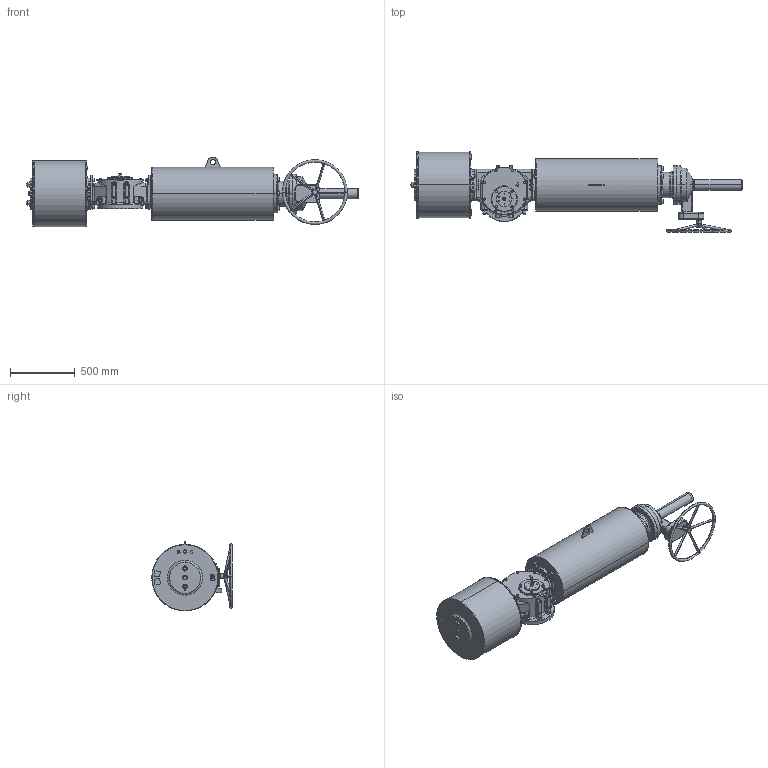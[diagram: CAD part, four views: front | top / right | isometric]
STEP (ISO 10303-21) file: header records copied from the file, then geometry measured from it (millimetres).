
FILE_DESCRIPTION (( 'STEP AP203' ), '1' );
FILE_NAME ('VTS4-500-SR-MG-FC.STEP', '2023-01-01T09:27:34', ( '' ), ( '' ), 'SwSTEP 2.0', 'SolidWorks 2020', '' );
FILE_SCHEMA (( 'CONFIG_CONTROL_DESIGN' ));
Length unit declared in the file: millimetre
Products named in the file (1): VTS4-500-SR-MG-FC
Bounding box: 2562.5 x 622 x 540.2 mm (x, y, z)
Volume: 251135736.5 mm3; surface area: 4841817.1 mm2
Topology: 18 solids, 21 shells, 2350 faces, 5928 edges, 3711 vertices
Faces by surface type: plane 881, cylinder 763, cone 479, bspline 160, torus 67
Entity records: 91097 total; most frequent: CARTESIAN_POINT 35783, ORIENTED_EDGE 11684, DIRECTION 11504, EDGE_CURVE 5842, AXIS2_PLACEMENT_3D 4583, VERTEX_POINT 3711, EDGE_LOOP 2633, CIRCLE 2392
